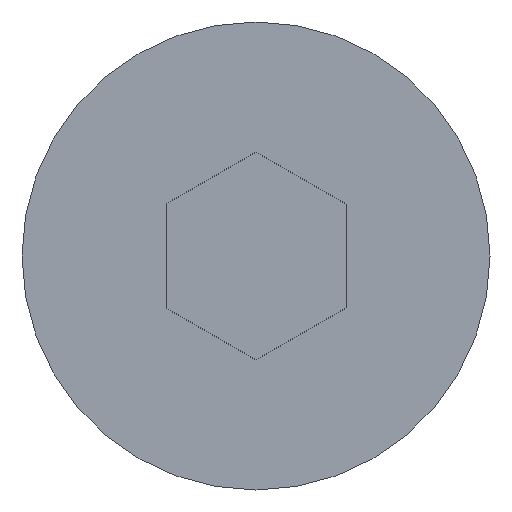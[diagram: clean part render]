
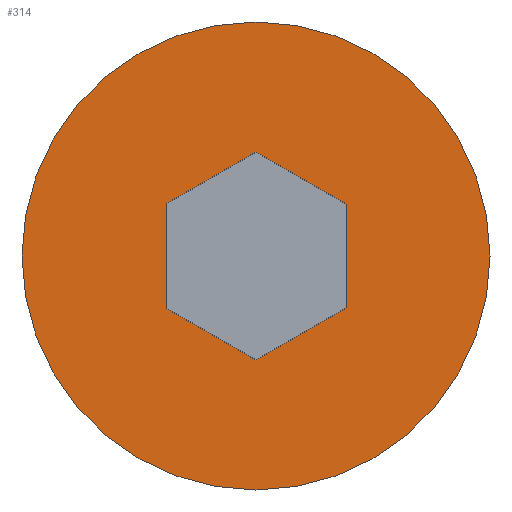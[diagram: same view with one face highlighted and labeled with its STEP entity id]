
A CAD part, front view. The second image highlights one B-rep face of the part: STEP entity #314.
In plain terms, the highlighted planar face has unit normal (0, -1, 0).
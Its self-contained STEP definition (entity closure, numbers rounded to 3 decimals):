
#61=CARTESIAN_POINT('',(0.,-5.,0.));
#62=DIRECTION('',(0.,-1.,0.));
#63=DIRECTION('',(1.,0.,0.));
#64=AXIS2_PLACEMENT_3D('',#61,#62,#63);
#66=CARTESIAN_POINT('',(0.,-5.,0.));
#67=DIRECTION('',(0.,-1.,0.));
#68=DIRECTION('',(-1.,0.,0.));
#69=AXIS2_PLACEMENT_3D('',#66,#67,#68);
#71=DIRECTION('',(0.,0.,1.));
#72=VECTOR('',#71,2.887);
#73=CARTESIAN_POINT('',(2.5,-5.,-1.443));
#74=LINE('',#73,#72);
#75=DIRECTION('',(-0.866,0.,0.5));
#76=VECTOR('',#75,2.887);
#77=CARTESIAN_POINT('',(2.5,-5.,1.443));
#78=LINE('',#77,#76);
#79=DIRECTION('',(-0.866,0.,-0.5));
#80=VECTOR('',#79,2.887);
#81=CARTESIAN_POINT('',(0.,-5.,2.887));
#82=LINE('',#81,#80);
#83=DIRECTION('',(0.,0.,-1.));
#84=VECTOR('',#83,2.887);
#85=CARTESIAN_POINT('',(-2.5,-5.,1.443));
#86=LINE('',#85,#84);
#87=DIRECTION('',(0.866,0.,-0.5));
#88=VECTOR('',#87,2.887);
#89=CARTESIAN_POINT('',(-2.5,-5.,-1.443));
#90=LINE('',#89,#88);
#91=DIRECTION('',(0.866,0.,0.5));
#92=VECTOR('',#91,2.887);
#93=CARTESIAN_POINT('',(0.,-5.,-2.887));
#94=LINE('',#93,#92);
#151=CARTESIAN_POINT('',(6.5,-5.,0.));
#152=CARTESIAN_POINT('',(-6.5,-5.,0.));
#153=VERTEX_POINT('',#151);
#154=VERTEX_POINT('',#152);
#171=CARTESIAN_POINT('',(2.5,-5.,-1.443));
#172=CARTESIAN_POINT('',(2.5,-5.,1.443));
#173=VERTEX_POINT('',#171);
#174=VERTEX_POINT('',#172);
#175=CARTESIAN_POINT('',(0.,-5.,2.887));
#176=VERTEX_POINT('',#175);
#177=CARTESIAN_POINT('',(-2.5,-5.,1.443));
#178=VERTEX_POINT('',#177);
#179=CARTESIAN_POINT('',(-2.5,-5.,-1.443));
#180=VERTEX_POINT('',#179);
#181=CARTESIAN_POINT('',(0.,-5.,-2.887));
#182=VERTEX_POINT('',#181);
#291=CARTESIAN_POINT('',(0.,-5.,0.));
#292=DIRECTION('',(0.,-1.,0.));
#293=DIRECTION('',(1.,0.,0.));
#294=AXIS2_PLACEMENT_3D('',#291,#292,#293);
#295=PLANE('',#294);
#296=ORIENTED_EDGE('',*,*,#271,.F.);
#297=ORIENTED_EDGE('',*,*,#285,.F.);
#298=EDGE_LOOP('',(#296,#297));
#299=FACE_OUTER_BOUND('',#298,.F.);
#301=ORIENTED_EDGE('',*,*,#300,.T.);
#303=ORIENTED_EDGE('',*,*,#302,.T.);
#305=ORIENTED_EDGE('',*,*,#304,.T.);
#307=ORIENTED_EDGE('',*,*,#306,.T.);
#309=ORIENTED_EDGE('',*,*,#308,.T.);
#311=ORIENTED_EDGE('',*,*,#310,.T.);
#312=EDGE_LOOP('',(#301,#303,#305,#307,#309,#311));
#313=FACE_BOUND('',#312,.F.);
#314=ADVANCED_FACE('',(#299,#313),#295,.T.);
#65=CIRCLE('',#64,6.5);
#70=CIRCLE('',#69,6.5);
#271=EDGE_CURVE('',#153,#154,#65,.T.);
#285=EDGE_CURVE('',#154,#153,#70,.T.);
#300=EDGE_CURVE('',#173,#174,#74,.T.);
#302=EDGE_CURVE('',#174,#176,#78,.T.);
#304=EDGE_CURVE('',#176,#178,#82,.T.);
#306=EDGE_CURVE('',#178,#180,#86,.T.);
#308=EDGE_CURVE('',#180,#182,#90,.T.);
#310=EDGE_CURVE('',#182,#173,#94,.T.);
